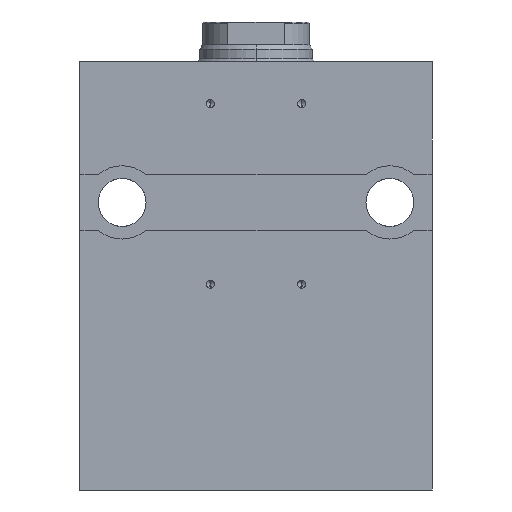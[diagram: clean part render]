
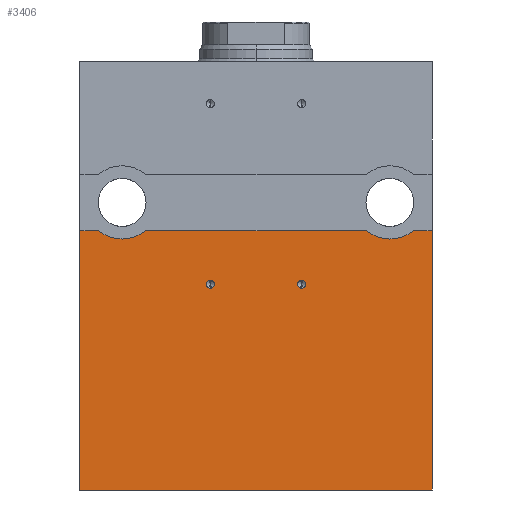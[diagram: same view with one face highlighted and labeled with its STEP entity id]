
A CAD part, left-side view. The second image highlights one B-rep face of the part: STEP entity #3406.
In plain terms, the highlighted planar face has unit normal (-1, 0, 0).
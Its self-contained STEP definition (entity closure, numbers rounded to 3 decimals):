
#14 = CARTESIAN_POINT ( 'NONE',  ( -47.5, -16.2, -94.425 ) ) ;
#23 = EDGE_CURVE ( 'NONE', #4354, #197, #235, .T. ) ;
#60 = CARTESIAN_POINT ( 'NONE',  ( -47.5, -16.2, -93. ) ) ;
#94 = VERTEX_POINT ( 'NONE', #5814 ) ;
#120 = EDGE_CURVE ( 'NONE', #4831, #4423, #6920, .T. ) ;
#164 = ORIENTED_EDGE ( 'NONE', *, *, #2392, .T. ) ;
#197 = VERTEX_POINT ( 'NONE', #2132 ) ;
#198 = AXIS2_PLACEMENT_3D ( 'NONE', #6185, #1979, #3082 ) ;
#235 = CIRCLE ( 'NONE', #2918, 13. ) ;
#322 = AXIS2_PLACEMENT_3D ( 'NONE', #1911, #3040, #5750 ) ;
#324 = DIRECTION ( 'NONE',  ( 1., 0., 0. ) ) ;
#403 = CIRCLE ( 'NONE', #6344, 1.425 ) ;
#405 = DIRECTION ( 'NONE',  ( 1., 0., 0. ) ) ;
#488 = EDGE_LOOP ( 'NONE', ( #4161, #2797 ) ) ;
#585 = LINE ( 'NONE', #975, #4576 ) ;
#609 = LINE ( 'NONE', #3908, #1431 ) ;
#684 = DIRECTION ( 'NONE',  ( -1., 0., 0. ) ) ;
#759 = CIRCLE ( 'NONE', #4463, 1.425 ) ;
#765 = ORIENTED_EDGE ( 'NONE', *, *, #5948, .F. ) ;
#975 = CARTESIAN_POINT ( 'NONE',  ( -47.5, 62.5, -166. ) ) ;
#1063 = EDGE_CURVE ( 'NONE', #5212, #94, #1291, .T. ) ;
#1068 = ORIENTED_EDGE ( 'NONE', *, *, #1907, .F. ) ;
#1203 = VECTOR ( 'NONE', #5621, 1000. ) ;
#1291 = LINE ( 'NONE', #4053, #2270 ) ;
#1326 = DIRECTION ( 'NONE',  ( 0., -1., 0. ) ) ;
#1327 = VERTEX_POINT ( 'NONE', #14 ) ;
#1349 = VERTEX_POINT ( 'NONE', #1745 ) ;
#1353 = CARTESIAN_POINT ( 'NONE',  ( -47.5, 62.5, -74. ) ) ;
#1392 = EDGE_LOOP ( 'NONE', ( #1068, #1683, #4387, #6912, #5710, #2983, #164, #4375 ) ) ;
#1423 = EDGE_CURVE ( 'NONE', #4807, #197, #609, .T. ) ;
#1431 = VECTOR ( 'NONE', #1326, 1000. ) ;
#1434 = CIRCLE ( 'NONE', #198, 1.425 ) ;
#1479 = DIRECTION ( 'NONE',  ( 0., 0., 1. ) ) ;
#1683 = ORIENTED_EDGE ( 'NONE', *, *, #23, .T. ) ;
#1745 = CARTESIAN_POINT ( 'NONE',  ( -47.5, -16.2, -91.575 ) ) ;
#1841 = CARTESIAN_POINT ( 'NONE',  ( -47.5, 62.5, -74. ) ) ;
#1857 = AXIS2_PLACEMENT_3D ( 'NONE', #4645, #324, #6739 ) ;
#1907 = EDGE_CURVE ( 'NONE', #4354, #4423, #6635, .T. ) ;
#1910 = DIRECTION ( 'NONE',  ( 0., 0., 1. ) ) ;
#1911 = CARTESIAN_POINT ( 'NONE',  ( -47.5, 62.5, -166. ) ) ;
#1924 = CARTESIAN_POINT ( 'NONE',  ( -47.5, 16.2, -91.575 ) ) ;
#1953 = EDGE_CURVE ( 'NONE', #1327, #1349, #1434, .T. ) ;
#1957 = DIRECTION ( 'NONE',  ( 0., 0., -1. ) ) ;
#1979 = DIRECTION ( 'NONE',  ( -1., 0., 0. ) ) ;
#2023 = CARTESIAN_POINT ( 'NONE',  ( -47.5, -47.5, -64. ) ) ;
#2132 = CARTESIAN_POINT ( 'NONE',  ( -47.5, -39.193, -74. ) ) ;
#2165 = CARTESIAN_POINT ( 'NONE',  ( -47.5, -55.807, -74. ) ) ;
#2186 = VECTOR ( 'NONE', #3170, 1000. ) ;
#2270 = VECTOR ( 'NONE', #3532, 1000. ) ;
#2308 = DIRECTION ( 'NONE',  ( 0., 0., 1. ) ) ;
#2310 = EDGE_CURVE ( 'NONE', #2486, #5212, #4571, .T. ) ;
#2387 = EDGE_CURVE ( 'NONE', #1349, #1327, #759, .T. ) ;
#2392 = EDGE_CURVE ( 'NONE', #2486, #4831, #585, .T. ) ;
#2486 = VERTEX_POINT ( 'NONE', #6930 ) ;
#2586 = DIRECTION ( 'NONE',  ( 0., -1., 0. ) ) ;
#2695 = CARTESIAN_POINT ( 'NONE',  ( -47.5, 16.2, -93. ) ) ;
#2746 = CARTESIAN_POINT ( 'NONE',  ( -47.5, -62.5, -166. ) ) ;
#2797 = ORIENTED_EDGE ( 'NONE', *, *, #1953, .F. ) ;
#2873 = CIRCLE ( 'NONE', #6128, 1.425 ) ;
#2918 = AXIS2_PLACEMENT_3D ( 'NONE', #2023, #405, #1957 ) ;
#2983 = ORIENTED_EDGE ( 'NONE', *, *, #2310, .F. ) ;
#3040 = DIRECTION ( 'NONE',  ( -1., 0., 0. ) ) ;
#3082 = DIRECTION ( 'NONE',  ( 0., 0., 1. ) ) ;
#3170 = DIRECTION ( 'NONE',  ( 0., 0., 1. ) ) ;
#3406 = ADVANCED_FACE ( 'NONE', ( #6275, #5234, #5647 ), #4637, .T. ) ;
#3425 = CARTESIAN_POINT ( 'NONE',  ( -47.5, 16.2, -93. ) ) ;
#3532 = DIRECTION ( 'NONE',  ( 0., -1., 0. ) ) ;
#3636 = EDGE_CURVE ( 'NONE', #6193, #4703, #403, .T. ) ;
#3908 = CARTESIAN_POINT ( 'NONE',  ( -47.5, 62.5, -74. ) ) ;
#4053 = CARTESIAN_POINT ( 'NONE',  ( -47.5, 62.5, -74. ) ) ;
#4161 = ORIENTED_EDGE ( 'NONE', *, *, #2387, .F. ) ;
#4179 = CARTESIAN_POINT ( 'NONE',  ( -47.5, 39.193, -74. ) ) ;
#4260 = ORIENTED_EDGE ( 'NONE', *, *, #3636, .F. ) ;
#4354 = VERTEX_POINT ( 'NONE', #2165 ) ;
#4375 = ORIENTED_EDGE ( 'NONE', *, *, #120, .T. ) ;
#4387 = ORIENTED_EDGE ( 'NONE', *, *, #1423, .F. ) ;
#4423 = VERTEX_POINT ( 'NONE', #4803 ) ;
#4463 = AXIS2_PLACEMENT_3D ( 'NONE', #60, #5788, #5894 ) ;
#4569 = EDGE_LOOP ( 'NONE', ( #765, #4260 ) ) ;
#4571 = LINE ( 'NONE', #5717, #6248 ) ;
#4576 = VECTOR ( 'NONE', #2586, 1000. ) ;
#4637 = PLANE ( 'NONE',  #322 ) ;
#4645 = CARTESIAN_POINT ( 'NONE',  ( -47.5, 47.5, -64. ) ) ;
#4703 = VERTEX_POINT ( 'NONE', #1924 ) ;
#4803 = CARTESIAN_POINT ( 'NONE',  ( -47.5, -62.5, -74. ) ) ;
#4807 = VERTEX_POINT ( 'NONE', #4179 ) ;
#4814 = DIRECTION ( 'NONE',  ( -1., 0., 0. ) ) ;
#4831 = VERTEX_POINT ( 'NONE', #6330 ) ;
#5212 = VERTEX_POINT ( 'NONE', #1353 ) ;
#5234 = FACE_BOUND ( 'NONE', #488, .T. ) ;
#5318 = CARTESIAN_POINT ( 'NONE',  ( -47.5, 16.2, -94.425 ) ) ;
#5621 = DIRECTION ( 'NONE',  ( 0., -1., 0. ) ) ;
#5647 = FACE_OUTER_BOUND ( 'NONE', #1392, .T. ) ;
#5710 = ORIENTED_EDGE ( 'NONE', *, *, #1063, .F. ) ;
#5717 = CARTESIAN_POINT ( 'NONE',  ( -47.5, 62.5, -166. ) ) ;
#5750 = DIRECTION ( 'NONE',  ( 0., 0., 1. ) ) ;
#5788 = DIRECTION ( 'NONE',  ( -1., 0., 0. ) ) ;
#5814 = CARTESIAN_POINT ( 'NONE',  ( -47.5, 55.807, -74. ) ) ;
#5894 = DIRECTION ( 'NONE',  ( 0., 0., 1. ) ) ;
#5948 = EDGE_CURVE ( 'NONE', #4703, #6193, #2873, .T. ) ;
#6106 = CIRCLE ( 'NONE', #1857, 13. ) ;
#6128 = AXIS2_PLACEMENT_3D ( 'NONE', #3425, #684, #2308 ) ;
#6185 = CARTESIAN_POINT ( 'NONE',  ( -47.5, -16.2, -93. ) ) ;
#6193 = VERTEX_POINT ( 'NONE', #5318 ) ;
#6248 = VECTOR ( 'NONE', #1910, 1000. ) ;
#6275 = FACE_BOUND ( 'NONE', #4569, .T. ) ;
#6330 = CARTESIAN_POINT ( 'NONE',  ( -47.5, -62.5, -166. ) ) ;
#6344 = AXIS2_PLACEMENT_3D ( 'NONE', #2695, #4814, #1479 ) ;
#6635 = LINE ( 'NONE', #1841, #1203 ) ;
#6646 = EDGE_CURVE ( 'NONE', #4807, #94, #6106, .T. ) ;
#6739 = DIRECTION ( 'NONE',  ( 0., 0., -1. ) ) ;
#6912 = ORIENTED_EDGE ( 'NONE', *, *, #6646, .T. ) ;
#6920 = LINE ( 'NONE', #2746, #2186 ) ;
#6930 = CARTESIAN_POINT ( 'NONE',  ( -47.5, 62.5, -166. ) ) ;
